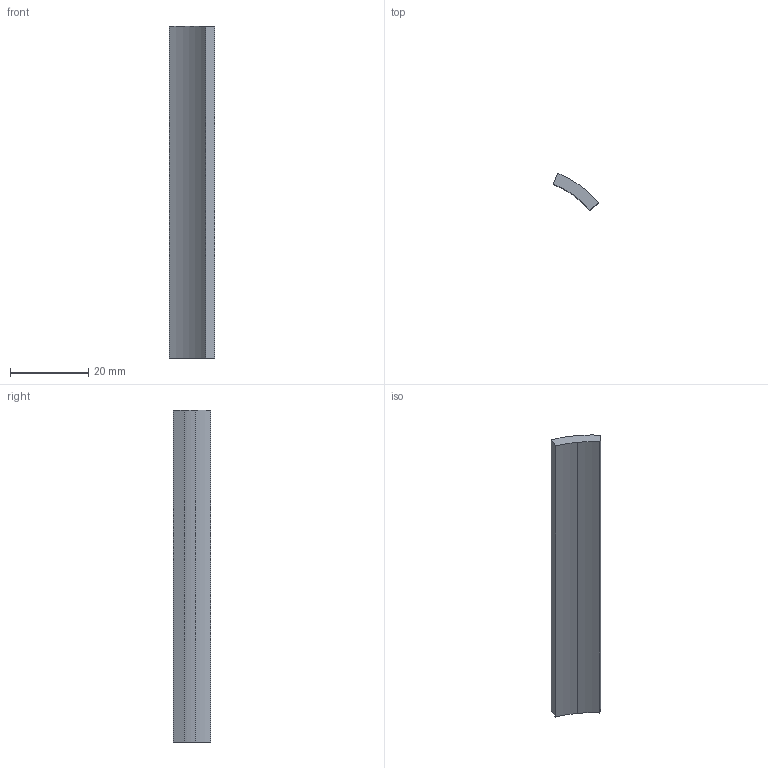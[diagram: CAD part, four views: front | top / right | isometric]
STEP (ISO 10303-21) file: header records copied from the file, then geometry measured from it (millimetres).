
FILE_DESCRIPTION(('FreeCAD Model'),'2;1');
FILE_NAME('Open CASCADE Shape Model','2026-11-05T18:53:51',('FreeCAD'),( 'FreeCAD'),'Open CASCADE STEP processor 7.8','FreeCAD','Unknown');
FILE_SCHEMA(('AUTOMOTIVE_DESIGN { 1 0 10303 214 1 1 1 1 }'));
Length unit declared in the file: millimetre
Products named in the file (1): Open CASCADE STEP translator 7.8 3
Bounding box: 11.57 x 9.51 x 85 mm (x, y, z)
Volume: 3140.3 mm3; surface area: 2677.4 mm2
Topology: 1 solids, 1 shells, 8 faces, 18 edges, 12 vertices
Faces by surface type: plane 4, cylinder 4
Entity records: 240 total; most frequent: DIRECTION 44, CARTESIAN_POINT 39, ORIENTED_EDGE 36, EDGE_CURVE 18, AXIS2_PLACEMENT_3D 17, VERTEX_POINT 12, LINE 10, VECTOR 10
